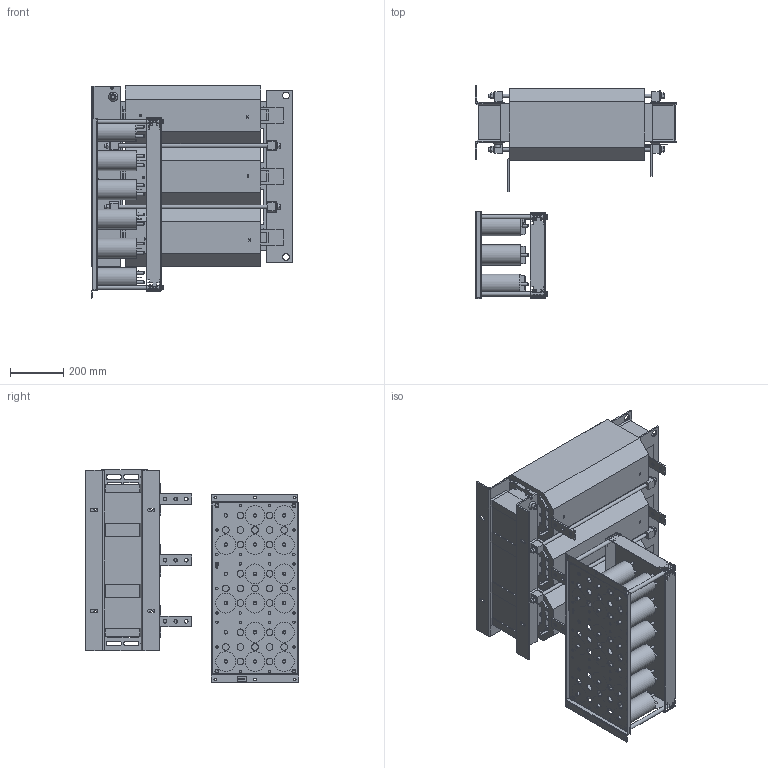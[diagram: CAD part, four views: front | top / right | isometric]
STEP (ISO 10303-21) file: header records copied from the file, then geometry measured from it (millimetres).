
FILE_DESCRIPTION(/* description */ ('raw material description'),/* implementation_level */ '2;1');
FILE_NAME(/* name */ 'C:\Users\Oliver.Volic\Desktop\FN5040HV-530-99.stp',/* time_stamp */ '2020-02-17T13:11:59+01:00',/* author */ ('Oliver.Volic'),/* organization */ ('Schaffner EMV AG'),/* preprocessor_version */ 'ST-DEVELOPER v16.5',/* originating_system */ 'Autodesk Inventor 2017',/* authorisation */ '');
FILE_SCHEMA (('CONFIG_CONTROL_DESIGN'));
Products named in the file (1): FN5040HV-530-99
Bounding box: 758 x 802.28 x 798.76 mm (x, y, z)
Volume: 94118920.8 mm3; surface area: 8730107.3 mm2
Topology: 2 solids, 2 shells, 3416 faces, 9529 edges, 6120 vertices
Faces by surface type: plane 2381, cylinder 695, bspline 197, cone 131, torus 12
Full cylindrical faces by diameter (mm): 6 x1, 6.1 x1, 6.4 x1, 7.1 x3, 8 x10, 9 x36, 9.5 x3, 10 x35, 11.8 x1, 12 x29, 12.611 x3, 13 x22, 13.5 x15, 14 x4, 15 x4, 18 x4, 21.1 x4, 22 x1, 24 x8, 25 x31, 37 x4, 75 x15
Entity records: 113696 total; most frequent: CARTESIAN_POINT 23434, ORIENTED_EDGE 18308, DIRECTION 16723, EDGE_CURVE 9150, LINE 6793, VECTOR 6793, VERTEX_POINT 6051, AXIS2_PLACEMENT_3D 4965
